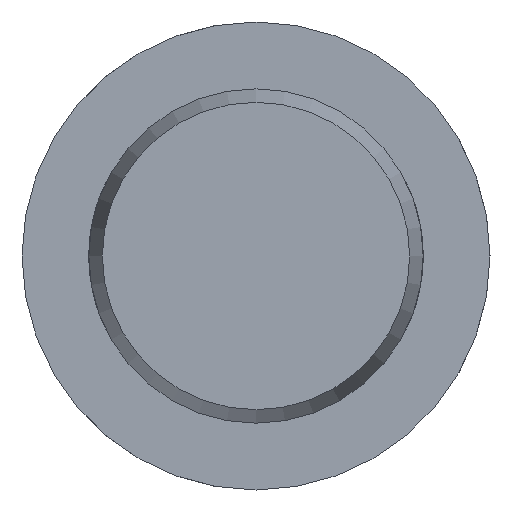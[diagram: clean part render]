
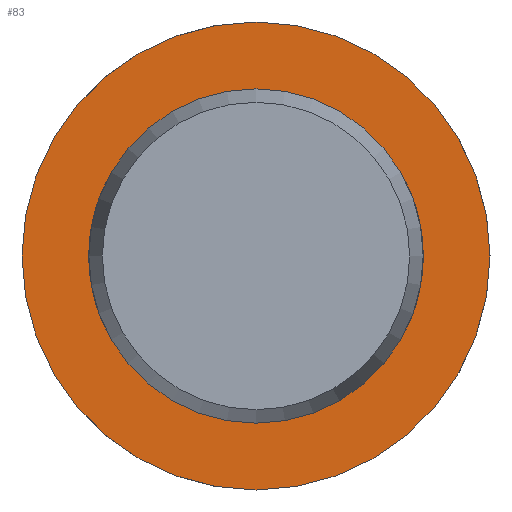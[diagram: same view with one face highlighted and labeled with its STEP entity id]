
A CAD part, left-side view. The second image highlights one B-rep face of the part: STEP entity #83.
In plain terms, the highlighted planar face has unit normal (-1, 0, 0).
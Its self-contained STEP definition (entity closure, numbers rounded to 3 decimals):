
#83 = ADVANCED_FACE( '', ( #129, #130 ), #131, .F. );
#129 = FACE_OUTER_BOUND( '', #208, .T. );
#130 = FACE_BOUND( '', #209, .T. );
#131 = PLANE( '', #210 );
#208 = EDGE_LOOP( '', ( #325 ) );
#209 = EDGE_LOOP( '', ( #326 ) );
#210 = AXIS2_PLACEMENT_3D( '', #327, #328, #329 );
#325 = ORIENTED_EDGE( '', *, *, #493, .F. );
#326 = ORIENTED_EDGE( '', *, *, #483, .T. );
#327 = CARTESIAN_POINT( '', ( 70.5, 10., 0. ) );
#328 = DIRECTION( '', ( 1., 0., 0. ) );
#329 = DIRECTION( '', ( 0., 0., -1. ) );
#483 = EDGE_CURVE( '', #554, #554, #555, .T. );
#493 = EDGE_CURVE( '', #572, #572, #573, .T. );
#554 = VERTEX_POINT( '', #759 );
#555 = CIRCLE( '', #760, 10. );
#572 = VERTEX_POINT( '', #942 );
#573 = CIRCLE( '', #943, 14. );
#759 = CARTESIAN_POINT( '', ( 70.5, 0., -10. ) );
#760 = AXIS2_PLACEMENT_3D( '', #1006, #1007, #1008 );
#942 = CARTESIAN_POINT( '', ( 70.5, 0., -14. ) );
#943 = AXIS2_PLACEMENT_3D( '', #1027, #1028, #1029 );
#1006 = CARTESIAN_POINT( '', ( 70.5, 0., 0. ) );
#1007 = DIRECTION( '', ( 1., 0., 0. ) );
#1008 = DIRECTION( '', ( 0., 0., -1. ) );
#1027 = CARTESIAN_POINT( '', ( 70.5, 0., 0. ) );
#1028 = DIRECTION( '', ( 1., 0., 0. ) );
#1029 = DIRECTION( '', ( 0., 0., -1. ) );
